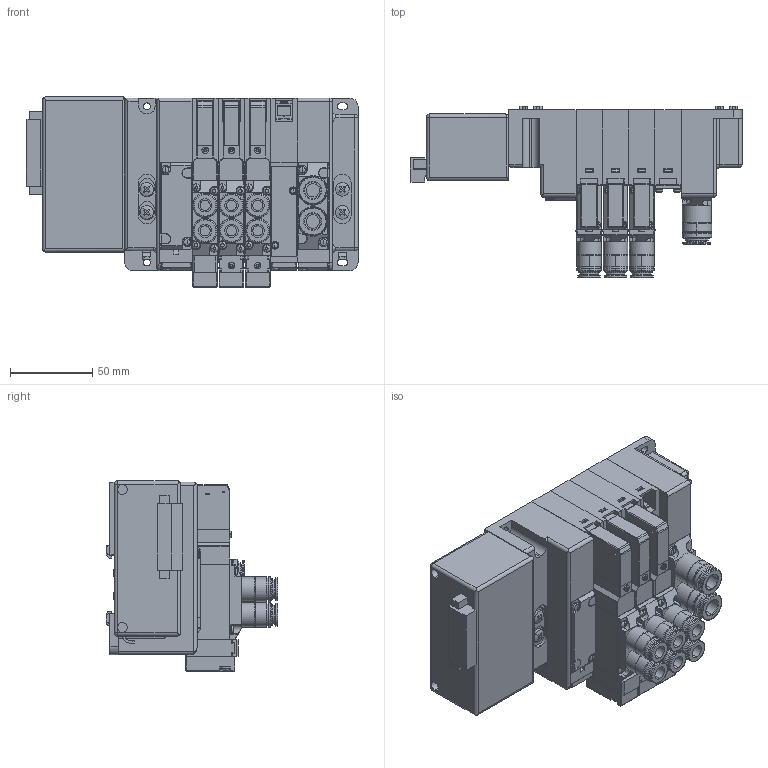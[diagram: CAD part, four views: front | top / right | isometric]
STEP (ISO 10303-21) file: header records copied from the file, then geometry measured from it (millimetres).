
FILE_DESCRIPTION( (''), '2;1');
FILE_NAME ('CVICAD02.4348.F15M4XS-JR-B1-DN_21971.stp','2021-07-12T19:15:27',(''),(''),'spGate 12.6.6','','');
FILE_SCHEMA (('AUTOMOTIVE_DESIGN'));
Length unit declared in the file: millimetre
Products named in the file (19): Assembly; CVICAD02-prt0; CVICAD02-prt1; CVICAD02-prt2; CVICAD02-prt3; CVICAD02-prt4; CVICAD02-asm1; CVICAD02-asm2; CVICAD02-prt13; CVICAD02-prt14; CVICAD02-prt15; CVICAD02-prt5; CVICAD02-prt6; CVICAD02-prt7; CVICAD02-prt8; CVICAD02-prt9; CVICAD02-prt10; CVICAD02-prt11; CVICAD02-prt12
Assembly tree (33 placements, depth 3):
  Assembly
    CVICAD02-prt0  x4
    CVICAD02-prt1
    CVICAD02-prt2  x4
    CVICAD02-prt3
    CVICAD02-prt4
    CVICAD02-asm1
      CVICAD02-prt5
      CVICAD02-prt6
      CVICAD02-prt7
      CVICAD02-prt8
      CVICAD02-prt9
      CVICAD02-prt10
      CVICAD02-prt11
    CVICAD02-asm2  x2
      CVICAD02-prt5
      CVICAD02-prt6
      CVICAD02-prt7
      CVICAD02-prt9
      CVICAD02-prt12
      CVICAD02-prt10
      CVICAD02-prt11
    CVICAD02-prt13
    CVICAD02-prt14  x3
    CVICAD02-prt15
Bounding box: 202 x 104.2 x 115.69 mm (x, y, z)
Volume: 987727 mm3; surface area: 224852.5 mm2
Topology: 37 solids, 37 shells, 3391 faces, 8800 edges, 5658 vertices
Faces by surface type: plane 2146, cylinder 901, bspline 296, sphere 48
Entity records: 87705 total; most frequent: CARTESIAN_POINT 11915, ORIENTED_EDGE 8674, DIRECTION 8160, COLOUR_RGB 6022, PRESENTATION_STYLE_ASSIGNMENT 6022, STYLED_ITEM 6022, EDGE_CURVE 4337, DRAUGHTING_PRE_DEFINED_CURVE_FONT 4337
